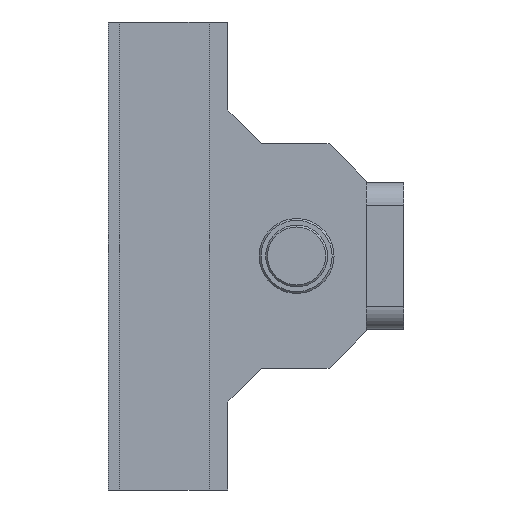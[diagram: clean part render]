
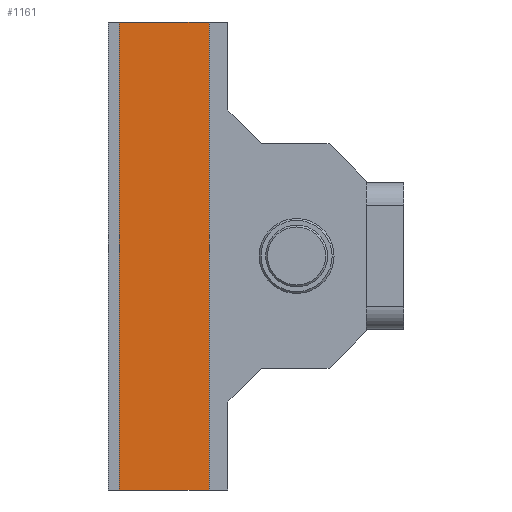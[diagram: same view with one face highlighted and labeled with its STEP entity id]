
A CAD part, left-side view. The second image highlights one B-rep face of the part: STEP entity #1161.
In plain terms, the highlighted planar face has unit normal (-1, 0, 0).
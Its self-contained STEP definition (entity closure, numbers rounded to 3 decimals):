
#2 = VERTEX_POINT ( 'NONE', #1817 ) ;
#79 = EDGE_CURVE ( 'NONE', #1223, #1886, #1425, .T. ) ;
#254 = CARTESIAN_POINT ( 'NONE',  ( -16.5, 62., -62.5 ) ) ;
#285 = CARTESIAN_POINT ( 'NONE',  ( -16.5, 86., 62.5 ) ) ;
#347 = LINE ( 'NONE', #1196, #1896 ) ;
#355 = EDGE_CURVE ( 'NONE', #1321, #1886, #402, .T. ) ;
#402 = LINE ( 'NONE', #1648, #1630 ) ;
#455 = DIRECTION ( 'NONE',  ( 0., -1., 0. ) ) ;
#729 = DIRECTION ( 'NONE',  ( 0., 0., -1. ) ) ;
#804 = EDGE_LOOP ( 'NONE', ( #1654, #1604, #2444, #1087 ) ) ;
#964 = EDGE_CURVE ( 'NONE', #2, #1321, #347, .T. ) ;
#994 = VECTOR ( 'NONE', #1464, 1000. ) ;
#1087 = ORIENTED_EDGE ( 'NONE', *, *, #2184, .F. ) ;
#1102 = LINE ( 'NONE', #285, #1182 ) ;
#1161 = ADVANCED_FACE ( 'NONE', ( #1697 ), #1496, .F. ) ;
#1182 = VECTOR ( 'NONE', #455, 1000. ) ;
#1196 = CARTESIAN_POINT ( 'NONE',  ( -16.5, 86., 62.5 ) ) ;
#1202 = DIRECTION ( 'NONE',  ( 1., 0., 0. ) ) ;
#1223 = VERTEX_POINT ( 'NONE', #2599 ) ;
#1321 = VERTEX_POINT ( 'NONE', #1952 ) ;
#1425 = LINE ( 'NONE', #2068, #994 ) ;
#1464 = DIRECTION ( 'NONE',  ( 0., 0., -1. ) ) ;
#1496 = PLANE ( 'NONE',  #2602 ) ;
#1542 = CARTESIAN_POINT ( 'NONE',  ( -16.5, 86., 62.5 ) ) ;
#1604 = ORIENTED_EDGE ( 'NONE', *, *, #355, .T. ) ;
#1630 = VECTOR ( 'NONE', #2621, 1000. ) ;
#1648 = CARTESIAN_POINT ( 'NONE',  ( -16.5, 86., -62.5 ) ) ;
#1654 = ORIENTED_EDGE ( 'NONE', *, *, #964, .T. ) ;
#1697 = FACE_OUTER_BOUND ( 'NONE', #804, .T. ) ;
#1817 = CARTESIAN_POINT ( 'NONE',  ( -16.5, 86., 62.5 ) ) ;
#1886 = VERTEX_POINT ( 'NONE', #254 ) ;
#1896 = VECTOR ( 'NONE', #729, 1000. ) ;
#1952 = CARTESIAN_POINT ( 'NONE',  ( -16.5, 86., -62.5 ) ) ;
#2068 = CARTESIAN_POINT ( 'NONE',  ( -16.5, 62., 62.5 ) ) ;
#2184 = EDGE_CURVE ( 'NONE', #2, #1223, #1102, .T. ) ;
#2444 = ORIENTED_EDGE ( 'NONE', *, *, #79, .F. ) ;
#2545 = DIRECTION ( 'NONE',  ( 0., 1., 0. ) ) ;
#2599 = CARTESIAN_POINT ( 'NONE',  ( -16.5, 62., 62.5 ) ) ;
#2602 = AXIS2_PLACEMENT_3D ( 'NONE', #1542, #1202, #2545 ) ;
#2621 = DIRECTION ( 'NONE',  ( 0., -1., 0. ) ) ;
